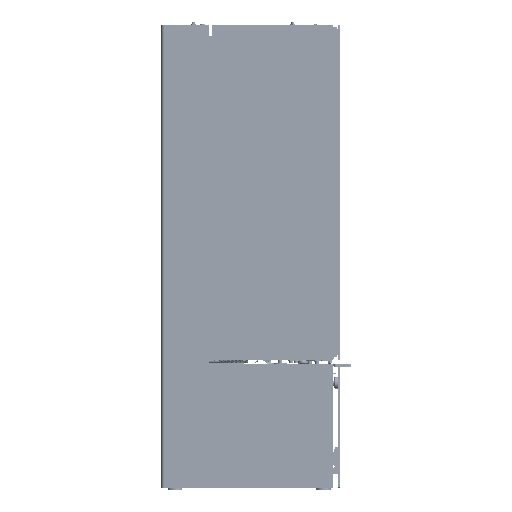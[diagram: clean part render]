
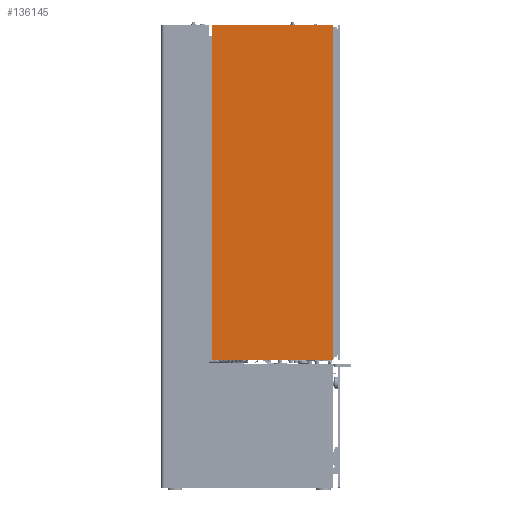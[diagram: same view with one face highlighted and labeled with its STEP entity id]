
A CAD part, left-side view. The second image highlights one B-rep face of the part: STEP entity #136145.
In plain terms, the highlighted planar face has unit normal (-1, 0, 0) as drawn and (0, 0, 1) by its records, which use the part's own axes.
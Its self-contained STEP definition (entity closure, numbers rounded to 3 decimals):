
#10124=PLANE('',#152588);
#17127=FACE_OUTER_BOUND('',#26367,.T.);
#26367=EDGE_LOOP('',(#121432,#121433,#121434,#121435,#121436,#121437,#121438,
#121439));
#38193=LINE('',#260238,#50451);
#38199=LINE('',#260258,#50457);
#38202=LINE('',#260266,#50460);
#38204=LINE('',#260272,#50462);
#50451=VECTOR('',#188186,10.);
#50457=VECTOR('',#188206,10.);
#50460=VECTOR('',#188215,10.);
#50462=VECTOR('',#188223,10.);
#56878=CIRCLE('',#152572,1.5);
#56883=CIRCLE('',#152580,1.5);
#56884=CIRCLE('',#152583,1.5);
#56885=CIRCLE('',#152586,1.5);
#68393=VERTEX_POINT('',#260225);
#68394=VERTEX_POINT('',#260226);
#68398=VERTEX_POINT('',#260236);
#68404=VERTEX_POINT('',#260252);
#68405=VERTEX_POINT('',#260256);
#68406=VERTEX_POINT('',#260260);
#68407=VERTEX_POINT('',#260264);
#68408=VERTEX_POINT('',#260268);
#86312=EDGE_CURVE('',#68393,#68394,#56878,.T.);
#86318=EDGE_CURVE('',#68398,#68393,#38193,.T.);
#86325=EDGE_CURVE('',#68404,#68398,#56883,.T.);
#86328=EDGE_CURVE('',#68405,#68404,#38199,.T.);
#86329=EDGE_CURVE('',#68406,#68405,#56884,.T.);
#86332=EDGE_CURVE('',#68407,#68406,#38202,.T.);
#86333=EDGE_CURVE('',#68408,#68407,#56885,.T.);
#86335=EDGE_CURVE('',#68394,#68408,#38204,.T.);
#121432=ORIENTED_EDGE('',*,*,#86312,.F.);
#121433=ORIENTED_EDGE('',*,*,#86318,.F.);
#121434=ORIENTED_EDGE('',*,*,#86325,.F.);
#121435=ORIENTED_EDGE('',*,*,#86328,.F.);
#121436=ORIENTED_EDGE('',*,*,#86329,.F.);
#121437=ORIENTED_EDGE('',*,*,#86332,.F.);
#121438=ORIENTED_EDGE('',*,*,#86333,.F.);
#121439=ORIENTED_EDGE('',*,*,#86335,.F.);
#136145=ADVANCED_FACE('',(#17127),#10124,.T.);
#152572=AXIS2_PLACEMENT_3D('',#260227,#188176,#188177);
#152580=AXIS2_PLACEMENT_3D('',#260253,#188200,#188201);
#152583=AXIS2_PLACEMENT_3D('',#260261,#188209,#188210);
#152586=AXIS2_PLACEMENT_3D('',#260269,#188218,#188219);
#152588=AXIS2_PLACEMENT_3D('',#260273,#188224,#188225);
#188176=DIRECTION('center_axis',(0.,0.,-1.));
#188177=DIRECTION('ref_axis',(-0.707,-0.707,0.));
#188186=DIRECTION('',(-1.,0.,0.));
#188200=DIRECTION('center_axis',(0.,0.,-1.));
#188201=DIRECTION('ref_axis',(0.707,-0.707,0.));
#188206=DIRECTION('',(0.,-1.,0.));
#188209=DIRECTION('center_axis',(0.,0.,-1.));
#188210=DIRECTION('ref_axis',(0.707,0.707,0.));
#188215=DIRECTION('',(1.,0.,0.));
#188218=DIRECTION('center_axis',(0.,0.,-1.));
#188219=DIRECTION('ref_axis',(-0.707,0.707,0.));
#188223=DIRECTION('',(0.,1.,0.));
#188224=DIRECTION('center_axis',(0.,0.,1.));
#188225=DIRECTION('ref_axis',(1.,0.,0.));
#260225=CARTESIAN_POINT('',(-130.5,-366.5,5.));
#260226=CARTESIAN_POINT('',(-132.,-365.,5.));
#260227=CARTESIAN_POINT('Origin',(-130.5,-365.,5.));
#260236=CARTESIAN_POINT('',(130.5,-366.5,5.));
#260238=CARTESIAN_POINT('',(-132.,-366.5,5.));
#260252=CARTESIAN_POINT('',(132.,-365.,5.));
#260253=CARTESIAN_POINT('Origin',(130.5,-365.,5.));
#260256=CARTESIAN_POINT('',(132.,365.,5.));
#260258=CARTESIAN_POINT('',(132.,-366.5,5.));
#260260=CARTESIAN_POINT('',(130.5,366.5,5.));
#260261=CARTESIAN_POINT('Origin',(130.5,365.,5.));
#260264=CARTESIAN_POINT('',(-130.5,366.5,5.));
#260266=CARTESIAN_POINT('',(132.,366.5,5.));
#260268=CARTESIAN_POINT('',(-132.,365.,5.));
#260269=CARTESIAN_POINT('Origin',(-130.5,365.,5.));
#260272=CARTESIAN_POINT('',(-132.,366.5,5.));
#260273=CARTESIAN_POINT('Origin',(0.,0.,
5.));
